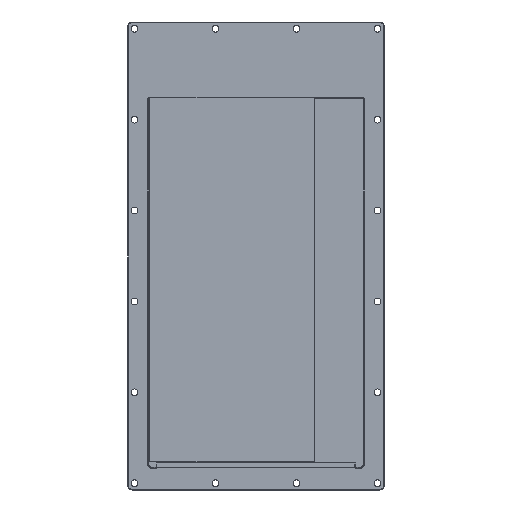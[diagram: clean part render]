
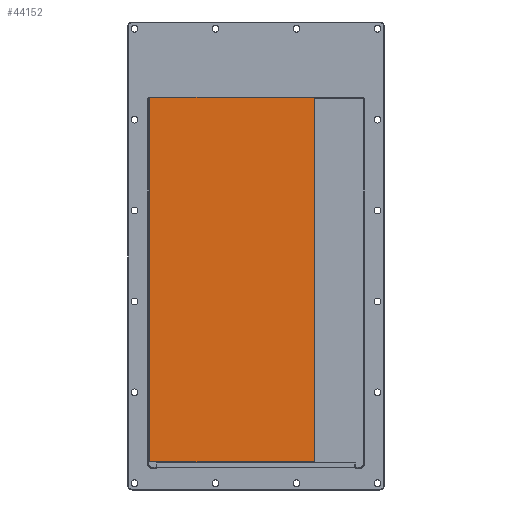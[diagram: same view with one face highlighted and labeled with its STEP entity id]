
A CAD part, front view. The second image highlights one B-rep face of the part: STEP entity #44152.
In plain terms, the highlighted planar face has unit normal (0, -1, 0).
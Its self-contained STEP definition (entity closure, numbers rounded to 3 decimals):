
#4042 = ORIENTED_EDGE ( 'NONE', *, *, #34936, .T. ) ;
#5558 = DIRECTION ( 'NONE',  ( 0., 1., 0. ) ) ;
#7829 = EDGE_CURVE ( 'NONE', #69074, #34250, #40705, .T. ) ;
#16553 = CARTESIAN_POINT ( 'NONE',  ( 91.5, -15.5, 231.5 ) ) ;
#16820 = CARTESIAN_POINT ( 'NONE',  ( -91.5, -15.5, 231.5 ) ) ;
#17974 = EDGE_LOOP ( 'NONE', ( #79229, #72924, #4042, #19914 ) ) ;
#19856 = DIRECTION ( 'NONE',  ( 0., 0., 1. ) ) ;
#19914 = ORIENTED_EDGE ( 'NONE', *, *, #37385, .T. ) ;
#27218 = CARTESIAN_POINT ( 'NONE',  ( 0., -15.5, 0. ) ) ;
#27254 = LINE ( 'NONE', #56778, #63790 ) ;
#28236 = DIRECTION ( 'NONE',  ( 1., 0., 0. ) ) ;
#31030 = DIRECTION ( 'NONE',  ( -1., 0., 0. ) ) ;
#32334 = DIRECTION ( 'NONE',  ( 0., 0., 1. ) ) ;
#34250 = VERTEX_POINT ( 'NONE', #16553 ) ;
#34936 = EDGE_CURVE ( 'NONE', #66666, #65297, #91481, .T. ) ;
#37385 = EDGE_CURVE ( 'NONE', #65297, #69074, #27254, .T. ) ;
#38913 = CARTESIAN_POINT ( 'NONE',  ( 91.5, -15.5, 231.5 ) ) ;
#40705 = LINE ( 'NONE', #41183, #56163 ) ;
#41183 = CARTESIAN_POINT ( 'NONE',  ( 91.5, -15.5, 231.5 ) ) ;
#44152 = ADVANCED_FACE ( 'NONE', ( #66490 ), #51270, .F. ) ;
#45306 = LINE ( 'NONE', #38913, #52719 ) ;
#46801 = DIRECTION ( 'NONE',  ( 0., 0., -1. ) ) ;
#51270 = PLANE ( 'NONE',  #76854 ) ;
#52454 = CARTESIAN_POINT ( 'NONE',  ( -91.5, -15.5, 231.5 ) ) ;
#52719 = VECTOR ( 'NONE', #31030, 1000. ) ;
#56163 = VECTOR ( 'NONE', #32334, 1000. ) ;
#56778 = CARTESIAN_POINT ( 'NONE',  ( 91.5, -15.5, -173.5 ) ) ;
#63790 = VECTOR ( 'NONE', #28236, 1000. ) ;
#64761 = CARTESIAN_POINT ( 'NONE',  ( -91.5, -15.5, -173.5 ) ) ;
#65297 = VERTEX_POINT ( 'NONE', #64761 ) ;
#66490 = FACE_OUTER_BOUND ( 'NONE', #17974, .T. ) ;
#66666 = VERTEX_POINT ( 'NONE', #52454 ) ;
#67978 = CARTESIAN_POINT ( 'NONE',  ( 91.5, -15.5, -173.5 ) ) ;
#69074 = VERTEX_POINT ( 'NONE', #67978 ) ;
#71342 = VECTOR ( 'NONE', #46801, 1000. ) ;
#72924 = ORIENTED_EDGE ( 'NONE', *, *, #94341, .T. ) ;
#76854 = AXIS2_PLACEMENT_3D ( 'NONE', #27218, #5558, #19856 ) ;
#79229 = ORIENTED_EDGE ( 'NONE', *, *, #7829, .T. ) ;
#91481 = LINE ( 'NONE', #16820, #71342 ) ;
#94341 = EDGE_CURVE ( 'NONE', #34250, #66666, #45306, .T. ) ;
